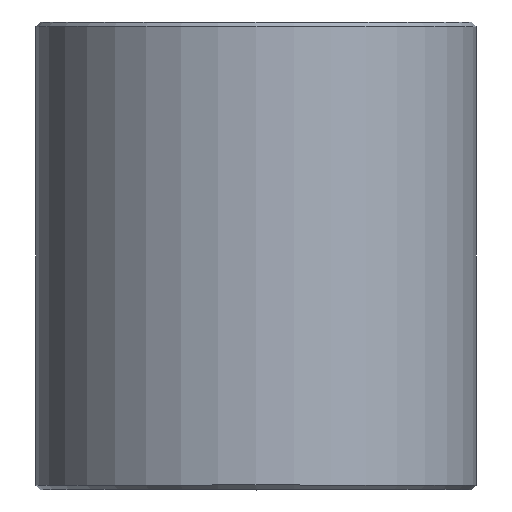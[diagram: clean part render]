
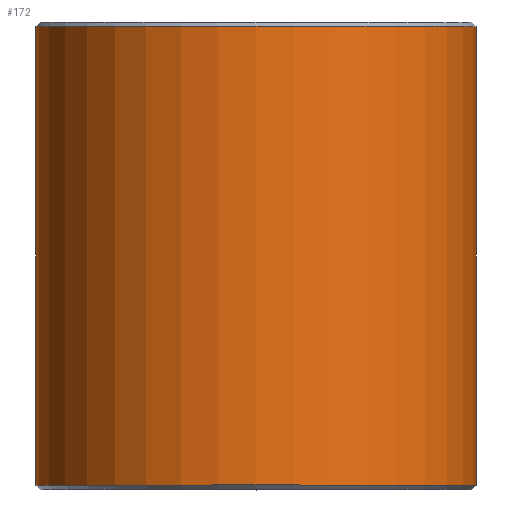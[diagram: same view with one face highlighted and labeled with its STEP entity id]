
A CAD part, top view. The second image highlights one B-rep face of the part: STEP entity #172.
In plain terms, the highlighted cylindrical face has radius 25.9 mm (diameter 51.8 mm), a full revolution.
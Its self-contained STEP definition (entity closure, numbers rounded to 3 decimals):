
#16=CYLINDRICAL_SURFACE('',#213,25.9);
#29=FACE_OUTER_BOUND('',#41,.T.);
#41=EDGE_LOOP('',(#134,#135,#136,#137,#138,#139));
#54=LINE('',#312,#63);
#63=VECTOR('',#259,25.9);
#73=CIRCLE('',#210,25.9);
#74=CIRCLE('',#211,25.9);
#76=CIRCLE('',#214,25.9);
#77=CIRCLE('',#215,25.9);
#86=VERTEX_POINT('',#300);
#87=VERTEX_POINT('',#301);
#89=VERTEX_POINT('',#308);
#90=VERTEX_POINT('',#309);
#103=EDGE_CURVE('',#86,#87,#73,.T.);
#104=EDGE_CURVE('',#87,#86,#74,.T.);
#107=EDGE_CURVE('',#89,#90,#76,.T.);
#108=EDGE_CURVE('',#90,#89,#77,.T.);
#109=EDGE_CURVE('',#90,#87,#54,.T.);
#134=ORIENTED_EDGE('',*,*,#107,.F.);
#135=ORIENTED_EDGE('',*,*,#108,.F.);
#136=ORIENTED_EDGE('',*,*,#109,.T.);
#137=ORIENTED_EDGE('',*,*,#103,.F.);
#138=ORIENTED_EDGE('',*,*,#104,.F.);
#139=ORIENTED_EDGE('',*,*,#109,.F.);
#172=ADVANCED_FACE('',(#29),#16,.T.);
#210=AXIS2_PLACEMENT_3D('',#302,#246,#247);
#211=AXIS2_PLACEMENT_3D('',#303,#248,#249);
#213=AXIS2_PLACEMENT_3D('',#307,#253,#254);
#214=AXIS2_PLACEMENT_3D('',#310,#255,#256);
#215=AXIS2_PLACEMENT_3D('',#311,#257,#258);
#246=DIRECTION('center_axis',(0.,-1.,0.));
#247=DIRECTION('ref_axis',(1.,0.,0.));
#248=DIRECTION('center_axis',(0.,-1.,0.));
#249=DIRECTION('ref_axis',(1.,0.,0.));
#253=DIRECTION('center_axis',(0.,1.,0.));
#254=DIRECTION('ref_axis',(-1.,0.,0.));
#255=DIRECTION('center_axis',(0.,1.,0.));
#256=DIRECTION('ref_axis',(1.,0.,0.));
#257=DIRECTION('center_axis',(0.,1.,0.));
#258=DIRECTION('ref_axis',(1.,0.,0.));
#259=DIRECTION('',(0.,-1.,0.));
#300=CARTESIAN_POINT('',(-25.9,0.5,0.));
#301=CARTESIAN_POINT('',(25.9,0.5,0.));
#302=CARTESIAN_POINT('Origin',(0.,0.5,0.));
#303=CARTESIAN_POINT('Origin',(0.,0.5,0.));
#307=CARTESIAN_POINT('Origin',(0.,0.,0.));
#308=CARTESIAN_POINT('',(-25.9,54.5,0.));
#309=CARTESIAN_POINT('',(25.9,54.5,0.));
#310=CARTESIAN_POINT('Origin',(0.,54.5,0.));
#311=CARTESIAN_POINT('Origin',(0.,54.5,0.));
#312=CARTESIAN_POINT('',(25.9,0.,0.));
